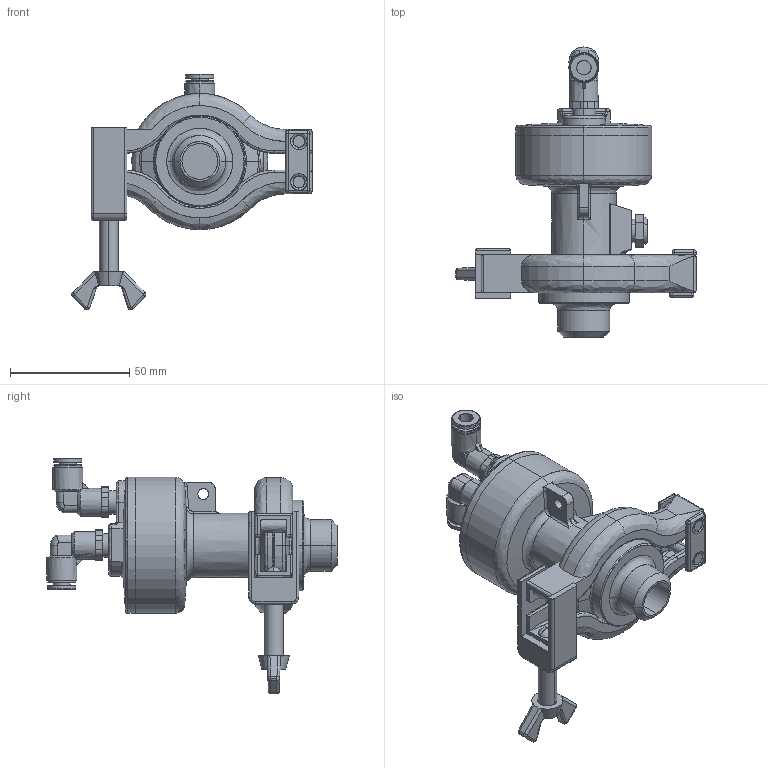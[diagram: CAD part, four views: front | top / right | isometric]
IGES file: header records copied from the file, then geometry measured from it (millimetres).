
Start section: SolidWorks IGES file using analytic representation for surfaces
Global section: file name: V:\WORK\08133\HP 寸法図\knocker\RKVS20F\test_E07000B-000 RKVS20F_defeature.IGS,15; native system: HSolidWorks 2018; preprocessor: SolidWorks 2018; author: n-udagawa; date: 230117.113959; units: millimetre
Bounding box: 100.52 x 121.45 x 98.62 mm (x, y, z)
Surface area: 40194.7 mm2 (no closed solid volume)
Topology: 0 solids, 0 shells, 559 faces, 8264 edges, 9667 vertices
Faces by surface type: bspline 294, revolution 265
